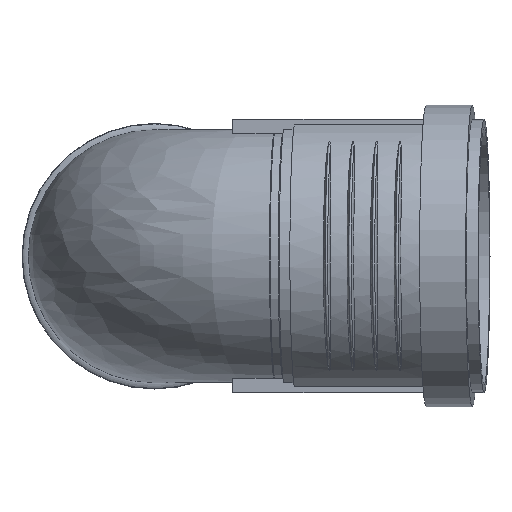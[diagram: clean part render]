
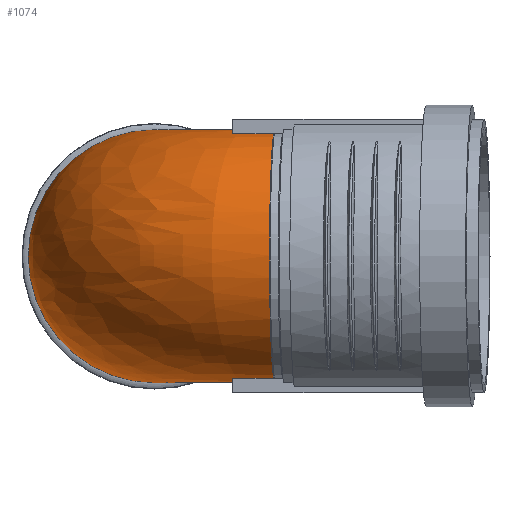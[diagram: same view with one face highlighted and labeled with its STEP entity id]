
A CAD part, top view. The second image highlights one B-rep face of the part: STEP entity #1074.
In plain terms, the highlighted free-form (B-spline) face has degree [2, 2] with [9, 9] control points.
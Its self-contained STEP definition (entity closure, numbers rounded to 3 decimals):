
#142=(
BOUNDED_SURFACE()
B_SPLINE_SURFACE(2,2,((#1588,#1589,#1590,#1591,#1592,#1593,#1594,#1595,
#1596),(#1597,#1598,#1599,#1600,#1601,#1602,#1603,#1604,#1605),(#1606,#1607,
#1608,#1609,#1610,#1611,#1612,#1613,#1614),(#1615,#1616,#1617,#1618,#1619,
#1620,#1621,#1622,#1623),(#1624,#1625,#1626,#1627,#1628,#1629,#1630,#1631,
#1632),(#1633,#1634,#1635,#1636,#1637,#1638,#1639,#1640,#1641),(#1642,#1643,
#1644,#1645,#1646,#1647,#1648,#1649,#1650),(#1651,#1652,#1653,#1654,#1655,
#1656,#1657,#1658,#1659),(#1660,#1661,#1662,#1663,#1664,#1665,#1666,#1667,
#1668)),.UNSPECIFIED.,.T.,.T.,.F.)
B_SPLINE_SURFACE_WITH_KNOTS((3,2,2,2,3),(3,2,2,2,3),(-3.142,
-1.571,0.,1.571,3.142),(-3.142,
-1.571,0.,1.571,3.142),.UNSPECIFIED.)
GEOMETRIC_REPRESENTATION_ITEM()
RATIONAL_B_SPLINE_SURFACE(((1.,0.707,1.,0.707,1.,
0.707,1.,0.707,1.),(0.707,0.5,0.707,
0.5,0.707,0.5,0.707,0.5,0.707),(1.,
0.707,1.,0.707,1.,0.707,1.,0.707,
1.),(0.707,0.5,0.707,0.5,
0.707,0.5,0.707,0.5,
0.707),(1.,0.707,1.,0.707,1.,0.707,
1.,0.707,1.),(0.707,0.5,0.707,
0.5,0.707,0.5,0.707,
0.5,0.707),(1.,0.707,1.,0.707,
1.,0.707,1.,0.707,1.),(0.707,0.5,0.707,
0.5,0.707,0.5,0.707,0.5,0.707),(1.,
0.707,1.,0.707,1.,0.707,1.,0.707,
1.)))
REPRESENTATION_ITEM($)
SURFACE()
);
#260=FACE_OUTER_BOUND($,#331,.T.);
#331=EDGE_LOOP($,(#734,#735));
#425=CIRCLE($,#1158,37.6);
#426=CIRCLE($,#1159,37.6);
#480=VERTEX_POINT($,#1586);
#586=EDGE_CURVE($,#480,#480,#425,.T.);
#587=EDGE_CURVE($,#480,#480,#426,.T.);
#734=ORIENTED_EDGE($,*,*,#586,.T.);
#735=ORIENTED_EDGE($,*,*,#587,.F.);
#1074=ADVANCED_FACE($,(#260),#142,.F.);
#1158=AXIS2_PLACEMENT_3D($,#1587,#1307,#1308);
#1159=AXIS2_PLACEMENT_3D($,#1669,#1309,#1310);
#1307=DIRECTION('center_axis',(-0.999,0.,-0.044));
#1308=DIRECTION('ref_axis',(-0.044,0.,0.999));
#1309=DIRECTION('center_axis',(0.,0.,-1.));
#1310=DIRECTION('ref_axis',(-1.,0.,0.));
#1586=CARTESIAN_POINT('',(37.6,0.,59.79));
#1587=CARTESIAN_POINT('Origin',(35.96,0.,97.354));
#1588=CARTESIAN_POINT('Ctrl Pts',(37.6,0.,59.79));
#1589=CARTESIAN_POINT('Ctrl Pts',(37.6,0.,59.79));
#1590=CARTESIAN_POINT('Ctrl Pts',(37.6,0.,59.79));
#1591=CARTESIAN_POINT('Ctrl Pts',(37.6,0.,59.79));
#1592=CARTESIAN_POINT('Ctrl Pts',(37.6,0.,59.79));
#1593=CARTESIAN_POINT('Ctrl Pts',(37.6,0.,59.79));
#1594=CARTESIAN_POINT('Ctrl Pts',(37.6,0.,59.79));
#1595=CARTESIAN_POINT('Ctrl Pts',(37.6,0.,59.79));
#1596=CARTESIAN_POINT('Ctrl Pts',(37.6,0.,59.79));
#1597=CARTESIAN_POINT('Ctrl Pts',(37.6,-37.6,59.79));
#1598=CARTESIAN_POINT('Ctrl Pts',(37.6,-37.6,59.79));
#1599=CARTESIAN_POINT('Ctrl Pts',(37.6,-37.6,59.79));
#1600=CARTESIAN_POINT('Ctrl Pts',(37.6,-37.6,59.79));
#1601=CARTESIAN_POINT('Ctrl Pts',(37.6,-37.6,59.79));
#1602=CARTESIAN_POINT('Ctrl Pts',(37.6,-37.6,59.79));
#1603=CARTESIAN_POINT('Ctrl Pts',(37.6,-37.6,59.79));
#1604=CARTESIAN_POINT('Ctrl Pts',(37.6,-37.6,59.79));
#1605=CARTESIAN_POINT('Ctrl Pts',(37.6,-37.6,59.79));
#1606=CARTESIAN_POINT('Ctrl Pts',(37.6,-37.6,22.19));
#1607=CARTESIAN_POINT('Ctrl Pts',(0.,-37.6,22.19));
#1608=CARTESIAN_POINT('Ctrl Pts',(0.,-37.6,59.79));
#1609=CARTESIAN_POINT('Ctrl Pts',(0.,-37.6,97.39));
#1610=CARTESIAN_POINT('Ctrl Pts',(37.6,-37.6,97.39));
#1611=CARTESIAN_POINT('Ctrl Pts',(75.2,-37.6,97.39));
#1612=CARTESIAN_POINT('Ctrl Pts',(75.2,-37.6,59.79));
#1613=CARTESIAN_POINT('Ctrl Pts',(75.2,-37.6,22.19));
#1614=CARTESIAN_POINT('Ctrl Pts',(37.6,-37.6,22.19));
#1615=CARTESIAN_POINT('Ctrl Pts',(37.6,-37.6,-15.41));
#1616=CARTESIAN_POINT('Ctrl Pts',(-37.6,-37.6,-15.41));
#1617=CARTESIAN_POINT('Ctrl Pts',(-37.6,-37.6,59.79));
#1618=CARTESIAN_POINT('Ctrl Pts',(-37.6,-37.6,134.99));
#1619=CARTESIAN_POINT('Ctrl Pts',(37.6,-37.6,134.99));
#1620=CARTESIAN_POINT('Ctrl Pts',(112.8,-37.6,134.99));
#1621=CARTESIAN_POINT('Ctrl Pts',(112.8,-37.6,59.79));
#1622=CARTESIAN_POINT('Ctrl Pts',(112.8,-37.6,-15.41));
#1623=CARTESIAN_POINT('Ctrl Pts',(37.6,-37.6,-15.41));
#1624=CARTESIAN_POINT('Ctrl Pts',(37.6,0.,-15.41));
#1625=CARTESIAN_POINT('Ctrl Pts',(-37.6,0.,-15.41));
#1626=CARTESIAN_POINT('Ctrl Pts',(-37.6,0.,59.79));
#1627=CARTESIAN_POINT('Ctrl Pts',(-37.6,0.,134.99));
#1628=CARTESIAN_POINT('Ctrl Pts',(37.6,0.,134.99));
#1629=CARTESIAN_POINT('Ctrl Pts',(112.8,0.,134.99));
#1630=CARTESIAN_POINT('Ctrl Pts',(112.8,0.,59.79));
#1631=CARTESIAN_POINT('Ctrl Pts',(112.8,0.,-15.41));
#1632=CARTESIAN_POINT('Ctrl Pts',(37.6,0.,-15.41));
#1633=CARTESIAN_POINT('Ctrl Pts',(37.6,37.6,-15.41));
#1634=CARTESIAN_POINT('Ctrl Pts',(-37.6,37.6,-15.41));
#1635=CARTESIAN_POINT('Ctrl Pts',(-37.6,37.6,59.79));
#1636=CARTESIAN_POINT('Ctrl Pts',(-37.6,37.6,134.99));
#1637=CARTESIAN_POINT('Ctrl Pts',(37.6,37.6,134.99));
#1638=CARTESIAN_POINT('Ctrl Pts',(112.8,37.6,134.99));
#1639=CARTESIAN_POINT('Ctrl Pts',(112.8,37.6,59.79));
#1640=CARTESIAN_POINT('Ctrl Pts',(112.8,37.6,-15.41));
#1641=CARTESIAN_POINT('Ctrl Pts',(37.6,37.6,-15.41));
#1642=CARTESIAN_POINT('Ctrl Pts',(37.6,37.6,22.19));
#1643=CARTESIAN_POINT('Ctrl Pts',(0.,37.6,22.19));
#1644=CARTESIAN_POINT('Ctrl Pts',(0.,37.6,59.79));
#1645=CARTESIAN_POINT('Ctrl Pts',(0.,37.6,97.39));
#1646=CARTESIAN_POINT('Ctrl Pts',(37.6,37.6,97.39));
#1647=CARTESIAN_POINT('Ctrl Pts',(75.2,37.6,97.39));
#1648=CARTESIAN_POINT('Ctrl Pts',(75.2,37.6,59.79));
#1649=CARTESIAN_POINT('Ctrl Pts',(75.2,37.6,22.19));
#1650=CARTESIAN_POINT('Ctrl Pts',(37.6,37.6,22.19));
#1651=CARTESIAN_POINT('Ctrl Pts',(37.6,37.6,59.79));
#1652=CARTESIAN_POINT('Ctrl Pts',(37.6,37.6,59.79));
#1653=CARTESIAN_POINT('Ctrl Pts',(37.6,37.6,59.79));
#1654=CARTESIAN_POINT('Ctrl Pts',(37.6,37.6,59.79));
#1655=CARTESIAN_POINT('Ctrl Pts',(37.6,37.6,59.79));
#1656=CARTESIAN_POINT('Ctrl Pts',(37.6,37.6,59.79));
#1657=CARTESIAN_POINT('Ctrl Pts',(37.6,37.6,59.79));
#1658=CARTESIAN_POINT('Ctrl Pts',(37.6,37.6,59.79));
#1659=CARTESIAN_POINT('Ctrl Pts',(37.6,37.6,59.79));
#1660=CARTESIAN_POINT('Ctrl Pts',(37.6,0.,59.79));
#1661=CARTESIAN_POINT('Ctrl Pts',(37.6,0.,59.79));
#1662=CARTESIAN_POINT('Ctrl Pts',(37.6,0.,59.79));
#1663=CARTESIAN_POINT('Ctrl Pts',(37.6,0.,59.79));
#1664=CARTESIAN_POINT('Ctrl Pts',(37.6,0.,59.79));
#1665=CARTESIAN_POINT('Ctrl Pts',(37.6,0.,59.79));
#1666=CARTESIAN_POINT('Ctrl Pts',(37.6,0.,59.79));
#1667=CARTESIAN_POINT('Ctrl Pts',(37.6,0.,59.79));
#1668=CARTESIAN_POINT('Ctrl Pts',(37.6,0.,59.79));
#1669=CARTESIAN_POINT('Origin',(0.,0.,59.79));
